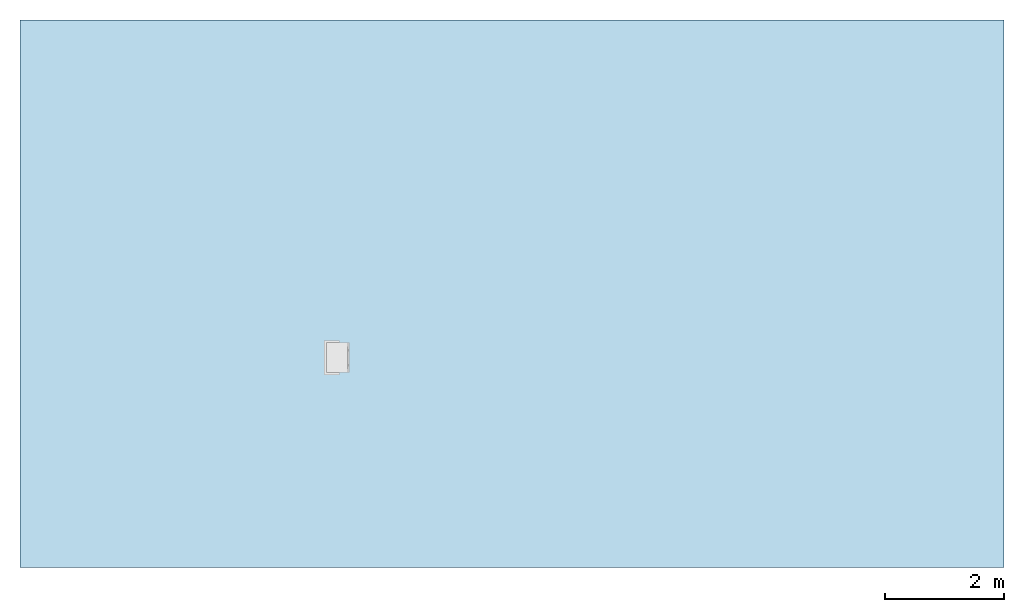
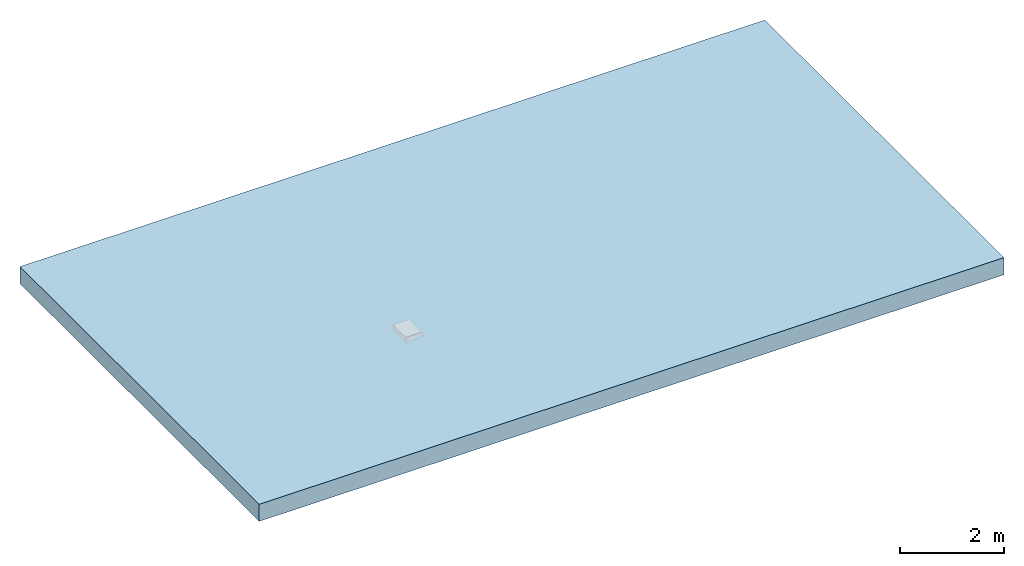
# One storey, part 1 of 2: 1 slab, 3 openings.
"""IFC2X3 building model written with IfcOpenShell, lengths in millimetres."""

import ifcopenshell
import ifcopenshell.guid

model = None  # the IFC model being written
_history = None  # IfcOwnerHistory: only IFC2X3 demands one
_inside = {}  # id of a spatial element -> (the spatial element, [elements in it])
_under = {}  # id of a project, library or spatial element -> (it, [spatial elements below it])
_declared = {}  # id of a project -> (the project, [libraries it declares])
_typed = {}  # id of a type object -> (the type object, [elements of that type])
_made_of = {}  # id of a material, layer set ... -> (it, [elements and type objects made of it])


def new_model(schema):
    """Start an empty IFC model of exactly this schema.

    Asked for "IFC4X3", IfcOpenShell would pick the latest addendum, in which some entities
    have other attributes; the version numbers below select the first issue.
    IFC2X3 requires an IfcOwnerHistory on every rooted entity: one is made here for all.
    """
    global model, _history
    if schema == "IFC4X3":
        model = ifcopenshell.file(schema_version=(4, 3, 0, 0))
    else:
        model = ifcopenshell.file(schema=schema)
    _inside.clear()
    _under.clear()
    _declared.clear()
    _typed.clear()
    _made_of.clear()
    _history = None
    if model.schema == "IFC2X3":
        org = make("IfcOrganization", Name="unknown")
        user = make(
            "IfcPersonAndOrganization",
            ThePerson=make("IfcPerson", FamilyName="unknown"),
            TheOrganization=org,
        )
        app = make(
            "IfcApplication",
            ApplicationDeveloper=org,
            Version="unknown",
            ApplicationFullName="unknown",
            ApplicationIdentifier="unknown",
        )
        _history = make(
            "IfcOwnerHistory",
            OwningUser=user,
            OwningApplication=app,
            ChangeAction="ADDED",
            CreationDate=0,
        )
    return model


def make(cls, **values):
    """One entity of the class cls with the attributes given. An attribute that is None is left unset."""
    return model.create_entity(
        cls, **{name: value for name, value in values.items() if value is not None}
    )


def entity(cls, *values):
    """Any entity or typed value of the class cls, its attributes in the order of the schema. None: left unset."""
    e = model.create_entity(cls)
    for i, value in enumerate(values):
        if value is not None:
            e[i] = value
    return e


def rooted(cls, **values):
    """An entity with a GlobalId (a new one), such as an element, a storey or a relation."""
    return make(cls, GlobalId=ifcopenshell.guid.new(), OwnerHistory=_history, **values)


def si_unit(unit_type, name, prefix=None):
    """IfcSIUnit, for example si_unit("LENGTHUNIT", "METRE", prefix="MILLI")."""
    return make("IfcSIUnit", UnitType=unit_type, Prefix=prefix, Name=name)


def converted_unit(unit_type, name, factor, base, dimensions=None, offset=None):
    """IfcConversionBasedUnit, such as the inch: factor (a typed value) times the base unit."""
    return make(
        "IfcConversionBasedUnit"
        if offset is None
        else "IfcConversionBasedUnitWithOffset",
        ConversionOffset=offset,
        Dimensions=None
        if dimensions is None
        else entity("IfcDimensionalExponents", *dimensions),
        UnitType=unit_type,
        Name=name,
        ConversionFactor=make(
            "IfcMeasureWithUnit", ValueComponent=factor, UnitComponent=base
        ),
    )


def assignment(units):
    """IfcUnitAssignment: the units of a project."""
    return None if units is None else make("IfcUnitAssignment", Units=units)


def point(xyz):
    """IfcCartesianPoint."""
    return None if xyz is None else make("IfcCartesianPoint", Coordinates=xyz)


def direction(xyz):
    """IfcDirection."""
    return None if xyz is None else make("IfcDirection", DirectionRatios=xyz)


def frame(location, z_axis=None, x_axis=None):
    """IfcAxis2Placement3D, a coordinate frame: its origin and axes. An axis left out is left unset."""
    return make(
        "IfcAxis2Placement3D",
        Location=point(location),
        Axis=direction(z_axis),
        RefDirection=direction(x_axis),
    )


def frame_2d(location, x_axis=None):
    """IfcAxis2Placement2D, a coordinate frame in the plane: its origin and x axis."""
    return make(
        "IfcAxis2Placement2D", Location=point(location), RefDirection=direction(x_axis)
    )


def origin():
    """The frame at (0, 0, 0) with its axes left unset."""
    return frame((0.0, 0.0, 0.0))


def place(relative_to, where):
    """IfcLocalPlacement: puts the frame where relative to a parent placement (None: the world)."""
    return make(
        "IfcLocalPlacement", PlacementRelTo=relative_to, RelativePlacement=where
    )


def context(
    kind, dimensions, precision=None, world=None, true_north=None, identifier=None
):
    """IfcGeometricRepresentationContext, for example the 3D "Model" context."""
    return make(
        "IfcGeometricRepresentationContext",
        ContextIdentifier=identifier,
        ContextType=kind,
        CoordinateSpaceDimension=dimensions,
        Precision=precision,
        WorldCoordinateSystem=world,
        TrueNorth=true_north,
    )


def subcontext(parent, identifier, kind, view, scale=None):
    """IfcGeometricRepresentationSubContext, for example "Body" below "Model"."""
    return make(
        "IfcGeometricRepresentationSubContext",
        ContextIdentifier=identifier,
        ContextType=kind,
        ParentContext=parent,
        TargetScale=scale,
        TargetView=view,
    )


def project(units=None, contexts=None):
    """IfcProject with its units and contexts."""
    return rooted(
        "IfcProject",
        Name="project",
        RepresentationContexts=contexts,
        UnitsInContext=assignment(units),
    )


def spatial(cls, under=None, at=None, **own):
    """A site, building, storey or space (cls), placed at a placement, below another one or the project."""
    s = rooted(cls, ObjectPlacement=at, **own)
    if under is not None:
        _under.setdefault(under.id(), (under, []))[1].append(s)
    return s


def polyline(points):
    """IfcPolyline through the points."""
    return make("IfcPolyline", Points=[point(p) for p in points])


def circle_curve(where, radius):
    """IfcCircle in the frame where."""
    return make("IfcCircle", Position=where, Radius=radius)


def parameter(value):
    """IfcParameterValue: where a trimmed curve begins or ends, as a parameter of its basis curve."""
    return model.create_entity("IfcParameterValue", value)


def trimmed(basis, trim1, trim2, sense, master):
    """IfcTrimmedCurve: the piece of a basis curve between two trims."""
    return make(
        "IfcTrimmedCurve",
        BasisCurve=basis,
        Trim1=trim1,
        Trim2=trim2,
        SenseAgreement=sense,
        MasterRepresentation=master,
    )


def segment(curve, same_sense, transition):
    """IfcCompositeCurveSegment."""
    return make(
        "IfcCompositeCurveSegment",
        Transition=transition,
        SameSense=same_sense,
        ParentCurve=curve,
    )


def composite_curve(segments, self_intersect=None):
    """IfcCompositeCurve: segments joined end to end."""
    return make("IfcCompositeCurve", Segments=segments, SelfIntersect=self_intersect)


def profile(cls, at=None, kind="AREA", **sizes):
    """A parametric profile (cls). Its sizes go by their IFC names, for example OverallWidth=200.0."""
    return make(cls, ProfileType=kind, Position=at, **sizes)


def rectangle(**sizes):
    """IfcRectangleProfileDef."""
    return profile("IfcRectangleProfileDef", **sizes)


def outline(outer, holes=None, kind="AREA"):
    """IfcArbitraryClosedProfileDef: a profile drawn as a closed curve; with holes, ...WithVoids."""
    if holes is None:
        return make("IfcArbitraryClosedProfileDef", ProfileType=kind, OuterCurve=outer)
    return make(
        "IfcArbitraryProfileDefWithVoids",
        ProfileType=kind,
        OuterCurve=outer,
        InnerCurves=holes,
    )


def extrude(swept, where, along, depth):
    """IfcExtrudedAreaSolid: the profile swept, set in the frame where, extruded along a direction by depth."""
    return make(
        "IfcExtrudedAreaSolid",
        SweptArea=swept,
        Position=where,
        ExtrudedDirection=direction(along),
        Depth=depth,
    )


def faces_of(points, faces, orient=None, outer=None):
    """IfcFace entities. A face is a list of loops; a loop is a list of indices into points, from 0.

    orient and outer hold one flag for each loop. By default every Orientation is true, the
    first loop of a face is its IfcFaceOuterBound and the others are IfcFaceBound.
    """
    made = []
    for i, loops in enumerate(faces):
        bounds = []
        for j, loop in enumerate(loops):
            is_outer = j == 0 if outer is None else outer[i][j]
            bounds.append(
                make(
                    "IfcFaceOuterBound" if is_outer else "IfcFaceBound",
                    Bound=make("IfcPolyLoop", Polygon=[points[k] for k in loop]),
                    Orientation=True if orient is None else orient[i][j],
                )
            )
        made.append(make("IfcFace", Bounds=bounds))
    return made


def faceted_brep(points, faces, orient=None, outer=None, voids=None):
    """IfcFacetedBrep: a solid bounded by flat faces; with voids (closed shells), ...WithVoids."""
    shared = [point(p) for p in points]
    hull = make("IfcClosedShell", CfsFaces=faces_of(shared, faces, orient, outer))
    if voids is None:
        return make("IfcFacetedBrep", Outer=hull)
    return make(
        "IfcFacetedBrepWithVoids",
        Outer=hull,
        Voids=[
            make(cls, CfsFaces=faces_of(shared, fs, o, b)) for cls, fs, o, b in voids
        ],
    )


def shape(context_of_items, identifier, shape_type, items):
    """IfcShapeRepresentation: the items that make up one representation, for example the "Body"."""
    return make(
        "IfcShapeRepresentation",
        ContextOfItems=context_of_items,
        RepresentationIdentifier=identifier,
        RepresentationType=shape_type,
        Items=items,
    )


def material(Name=None, Category=None):
    """IfcMaterial."""
    return make("IfcMaterial", Name=Name, Category=Category)


def layer(
    of_material, thickness, ventilated=None, Name=None, Category=None, Priority=None
):
    """IfcMaterialLayer: one layer of a wall or slab, of a material (None: an air gap)."""
    return make(
        "IfcMaterialLayer",
        Material=of_material,
        LayerThickness=thickness,
        IsVentilated=ventilated,
        Name=Name,
        Category=Category,
        Priority=Priority,
    )


def layer_set(layers, Name=None):
    """IfcMaterialLayerSet."""
    return make("IfcMaterialLayerSet", MaterialLayers=layers, LayerSetName=Name)


def layer_usage(for_layer_set, set_direction, sense, offset, extent=None):
    """IfcMaterialLayerSetUsage: how a layer set lies in its element."""
    return make(
        "IfcMaterialLayerSetUsage",
        ForLayerSet=for_layer_set,
        LayerSetDirection=set_direction,
        DirectionSense=sense,
        OffsetFromReferenceLine=offset,
        ReferenceExtent=extent,
    )


def made_of(thing, what):
    """Note that an element or type object is made of a material, layer set ...; save() writes the relation."""
    if what is not None:
        _made_of.setdefault(what.id(), (what, []))[1].append(thing)
    return thing


def element(
    cls,
    number,
    at=None,
    inside=None,
    cuts=None,
    type_object=None,
    material=None,
    context=None,
    identifier="Body",
    shape_type=None,
    held_by="IfcProductDefinitionShape",
    body=None,
    shapes=None,
    **own,
):
    """One element of the class cls, such as IfcWall. Its Tag is "e" and its number.

    at: its placement. inside: the storey or other place that contains it. cuts: it is an
    opening in that element (IfcRelVoidsElement). A single representation is given by context,
    identifier, shape_type and body (its items); several are given by shapes. held_by: the class
    of the entity that holds the representations. save() writes the other relations.
    """
    e = rooted(cls, Tag="e%d" % number, ObjectPlacement=at, **own)
    if body is not None:
        shapes = [shape(context, identifier, shape_type, body)]
    if shapes is not None:
        e.Representation = make(held_by, Representations=shapes)
    if inside is not None:
        _inside.setdefault(inside.id(), (inside, []))[1].append(e)
    if cuts is not None:
        rooted(
            "IfcRelVoidsElement", RelatingBuildingElement=cuts, RelatedOpeningElement=e
        )
    if type_object is not None:
        _typed.setdefault(type_object.id(), (type_object, []))[1].append(e)
    return made_of(e, material)


def aggregate(whole, parts):
    """IfcRelAggregates: a whole, such as a stair, and the parts it consists of."""
    return rooted("IfcRelAggregates", RelatingObject=whole, RelatedObjects=parts)


def save(model, path):
    """Write the relations noted so far, then the file.

    IfcRelAggregates (storeys below a building ...), IfcRelContainedInSpatialStructure (elements
    in a storey), IfcRelDefinesByType, IfcRelAssociatesMaterial and IfcRelDeclares: one each for
    every whole, place, type object, material and project.
    """
    for whole, parts in _under.values():
        aggregate(whole, parts)
    for where, things in _inside.values():
        rooted(
            "IfcRelContainedInSpatialStructure",
            RelatedElements=things,
            RelatingStructure=where,
        )
    for kind, things in _typed.values():
        rooted("IfcRelDefinesByType", RelatedObjects=things, RelatingType=kind)
    for what, things in _made_of.values():
        rooted("IfcRelAssociatesMaterial", RelatedObjects=things, RelatingMaterial=what)
    for by, libraries in _declared.values():
        rooted("IfcRelDeclares", RelatingContext=by, RelatedDefinitions=libraries)
    model.write(path)


model = new_model("IFC2X3")

# Units and contexts
model_context = context("Model", 3, precision=1e-06, world=origin(), true_north=direction((2.0, 6.12303176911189e-17, 1.0)))
context_of_model = context(None, 3, precision=1e-06, world=origin(), true_north=direction((2.0, 6.12303176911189e-17, 1.0)))
body_context = subcontext(model_context, "Body", "Model", "MODEL_VIEW")
ifc_project = project(units=[si_unit("LENGTHUNIT", "METRE", prefix="MILLI"), si_unit("AREAUNIT", "SQUARE_METRE", prefix="MILLI"), si_unit("VOLUMEUNIT", "CUBIC_METRE", prefix="MILLI"), converted_unit("PLANEANGLEUNIT", "DEGREE", entity("IfcRatioMeasure", 0.0174532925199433), si_unit("PLANEANGLEUNIT", "RADIAN"), dimensions=[0, 0, 0, 0, 0, 0, 0]), si_unit("TIMEUNIT", "SECOND")], contexts=[model_context, context_of_model])

# Site, building, storey
site_placement = place(None, origin())
site = spatial("IfcSite", under=ifc_project, at=site_placement, Name="Default", CompositionType="ELEMENT")
building_placement = place(site_placement, origin())
building = spatial("IfcBuilding", under=site, at=building_placement, CompositionType="ELEMENT")
storey_placement = place(building_placement, origin())
storey = spatial("IfcBuildingStorey", under=building, at=storey_placement, Name="Level 1", CompositionType="ELEMENT", Elevation=0.0)

# Slab, openings
ifc_material = material(Name="Plant")
ifc_layer = layer(ifc_material, 400.0)
ifc_layer_set = layer_set([ifc_layer], Name="Floor:Generic Floor - 400mm")
ifc_layer_usage = layer_usage(ifc_layer_set, "AXIS3", "POSITIVE", 0.0)
slab_placement = place(storey_placement, frame((-17967.0691536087, -3738.31688706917, -400.0)))
slab = element("IfcSlab", 1, at=slab_placement, inside=storey, material=ifc_layer_usage, Name="Floor:Generic Floor - 400mm", ObjectType="Floor:Generic Floor - 400mm", PredefinedType="FLOOR", context=body_context, shape_type="SweptSolid", body=[
    extrude(rectangle(XDim=9180.0, YDim=16500.0, at=frame_2d((0.0, 0.0), x_axis=(0.0, -1.0))), frame((8250.0, 4590.0, 400.0), z_axis=(0.0, 0.0, -1.0), x_axis=(-1.0, 0.0, 0.0)), (0.0, 0.0, 1.0), 400.0),
])
opening_1_placement = place(slab_placement, frame((10267.4809360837, 6495.72314067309, -6115.0)))
element("IfcOpeningElement", 2, at=opening_1_placement, cuts=slab, ObjectType="Recess", context=body_context, shape_type="Brep", body=[
    faceted_brep([(43.5952722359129, 541.595272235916, 0.0), (43.5952722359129, 541.595272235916, 340.0), (43.5952722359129, 41.595272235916, 340.0), (43.5952722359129, 41.595272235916, 0.0), (43.5952722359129, 541.595272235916, 349.98441010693), (43.5952722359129, 541.595272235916, 395.0), (43.5952722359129, 41.595272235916, 395.0), (43.5952722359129, 41.595272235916, 349.98441010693), (433.595272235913, 41.595272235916, 0.0), (433.595272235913, 541.595272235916, 0.0), (433.595272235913, 41.595272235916, 395.0), (433.595272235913, 541.595272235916, 395.0), (259.595272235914, 41.595272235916, 349.98441010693), (259.595272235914, 41.595272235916, 340.0), (259.595272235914, 541.595272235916, 349.98441010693), (259.595272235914, 541.595272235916, 340.0), (2.27675571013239, 566.771653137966, 340.0), (1.59527223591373, 561.595272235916, 340.0), (21.5952722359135, 581.595272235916, 340.0), (7.45313661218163, 575.737407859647, 340.0), (4.27476416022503, 571.595272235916, 340.0), (1.59527223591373, 21.5952722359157, 340.0), (2.27675571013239, 16.4188913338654, 340.0), (4.27476416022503, 11.5952722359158, 340.0), (21.5952722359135, 1.5952722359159, 340.0), (11.5952722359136, 4.27476416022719, 340.0), (7.4531366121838, 7.45313661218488, 340.0), (11.5952722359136, 578.915780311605, 340.0), (259.595272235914, 581.595272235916, 340.0), (16.4188913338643, 2.27675571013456, 340.0), (259.595272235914, 1.59527223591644, 340.0), (16.4188913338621, 580.913788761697, 340.0), (259.595272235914, 581.595272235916, 349.98441010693), (21.5952722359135, 581.595272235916, 349.98441010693), (1.59527223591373, 561.595272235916, 349.98441010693), (1.59527223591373, 21.5952722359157, 349.98441010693), (259.595272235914, 1.59527223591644, 349.98441010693), (16.4188913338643, 2.27675571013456, 349.98441010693), (11.5952722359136, 4.27476416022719, 349.98441010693), (21.5952722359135, 1.5952722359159, 349.98441010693), (11.5952722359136, 578.915780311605, 349.98441010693), (16.4188913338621, 580.913788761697, 349.98441010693), (4.27476416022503, 571.595272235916, 349.98441010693), (7.45313661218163, 575.737407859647, 349.98441010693), (2.27675571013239, 566.771653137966, 349.98441010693), (7.4531366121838, 7.45313661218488, 349.98441010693), (4.27476416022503, 11.5952722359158, 349.98441010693), (2.27675571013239, 16.4188913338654, 349.98441010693)], [[[0, 1, 2]], [[2, 3, 0]], [[4, 5, 6]], [[6, 7, 4]], [[3, 8, 9]], [[9, 0, 3]], [[10, 6, 5]], [[5, 11, 10]], [[12, 7, 6]], [[13, 12, 10]], [[6, 10, 12]], [[13, 3, 2]], [[10, 8, 13]], [[3, 13, 8]], [[9, 10, 11]], [[10, 9, 8]], [[5, 14, 11]], [[15, 11, 14]], [[14, 5, 4]], [[0, 9, 15]], [[11, 15, 9]], [[15, 1, 0]], [[16, 17, 18]], [[19, 20, 18]], [[18, 20, 16]], [[17, 21, 1]], [[22, 23, 24]], [[25, 24, 26]], [[26, 24, 23]], [[21, 22, 24]], [[18, 27, 19]], [[17, 1, 18]], [[15, 28, 1]], [[18, 1, 28]], [[21, 2, 1]], [[24, 25, 29]], [[30, 13, 2]], [[24, 30, 2]], [[21, 24, 2]], [[27, 18, 31]], [[4, 32, 14]], [[33, 4, 34]], [[32, 4, 33]], [[35, 4, 7]], [[7, 12, 36]], [[37, 38, 39]], [[39, 35, 7]], [[36, 39, 7]], [[33, 40, 41]], [[33, 42, 43]], [[44, 33, 34]], [[44, 42, 33]], [[34, 4, 35]], [[45, 39, 38]], [[39, 45, 46]], [[46, 47, 39]], [[39, 47, 35]], [[40, 33, 43]], [[44, 34, 16]], [[42, 44, 20]], [[16, 34, 17]], [[44, 16, 20]], [[42, 20, 19]], [[19, 43, 42]], [[40, 43, 27]], [[41, 40, 31]], [[31, 40, 27]], [[41, 31, 18]], [[41, 18, 33]], [[19, 27, 43]], [[35, 21, 17]], [[17, 34, 35]], [[37, 39, 29]], [[38, 37, 25]], [[29, 39, 24]], [[37, 29, 25]], [[38, 25, 26]], [[26, 45, 38]], [[46, 45, 23]], [[47, 46, 22]], [[22, 46, 23]], [[47, 22, 21]], [[47, 21, 35]], [[26, 23, 45]], [[36, 30, 24]], [[24, 39, 36]], [[12, 13, 30]], [[30, 36, 12]], [[32, 28, 15]], [[15, 14, 32]], [[32, 18, 28]], [[18, 32, 33]]]),
])
opening_2_placement = place(slab_placement, frame((10267.4809360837, 6495.72314067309, -6115.0)))
element("IfcOpeningElement", 3, at=opening_2_placement, cuts=slab, ObjectType="Recess", context=body_context, shape_type="SweptSolid", body=[
    extrude(outline(composite_curve([segment(trimmed(circle_curve(frame_2d((0.11246047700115, 0.0), x_axis=(1.0, 0.0)), 250.0), [parameter(129.825371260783)], [parameter(230.174628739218)], True, "PARAMETER"), True, "CONTINUOUS"), segment(polyline([(-160.0, -192.0), (-160.0, -250.0)]), True, "CONTINUOUS"), segment(polyline([(-160.0, -250.0), (0.0, -250.0)]), True, "CONTINUOUS"), segment(polyline([(0.0, -250.0), (160.0, -250.0)]), True, "CONTINUOUS"), segment(polyline([(160.0, -250.0), (160.0, -192.0)]), True, "CONTINUOUS"), segment(trimmed(circle_curve(frame_2d((-0.112460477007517, 0.0), x_axis=(1.0, 0.0)), 250.0), [parameter(309.825371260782)], [parameter(50.1746287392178)], True, "PARAMETER"), True, "CONTINUOUS"), segment(polyline([(160.0, 192.0), (160.0, 250.0)]), True, "CONTINUOUS"), segment(polyline([(160.0, 250.0), (0.0, 250.0)]), True, "CONTINUOUS"), segment(polyline([(0.0, 250.0), (-160.0, 250.0)]), True, "CONTINUOUS"), segment(polyline([(-160.0, 250.0), (-160.0, 192.0)]), True, "CONTINUOUS")], self_intersect=False)), frame((5333.57418739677, 3518.6592064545, -1985.0), z_axis=(0.0, 0.0, 1.0), x_axis=(-1.0, 0.0, 0.0)), (0.0, 0.0, 1.0), 4.99999999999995),
])
opening_3_placement = place(slab_placement, frame((10267.4809360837, 6495.72314067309, -6115.0)))
element("IfcOpeningElement", 4, at=opening_3_placement, cuts=slab, ObjectType="Recess", context=body_context, shape_type="Brep", body=[
    faceted_brep([(1.07216647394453, 500.0, 520.0), (1.0721664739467, 1.29978180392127, 885.0), (1.07216647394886, 1.29978180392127, 520.0), (1.07216647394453, 501.299781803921, 520.0), (1.07216647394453, 501.299781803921, 885.0), (321.072166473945, 501.299781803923, 520.0), (321.072166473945, 500.0, 520.0), (321.072166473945, 501.299781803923, 885.0), (321.072166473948, 340.0, 520.0), (321.072166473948, 500.0, 0.0), (321.072166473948, 340.0, 56.6307081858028), (321.07216647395, 160.0, 56.6307081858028), (321.072166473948, 1.2997818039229, 885.0), (321.072166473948, 160.0, 520.0), (321.07216647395, 1.2997818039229, 520.0), (321.07216647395, 0.0, 520.0), (321.07216647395, 0.0, 0.0), (0.0, 500.0, 0.0), (0.0, 0.0, 520.0), (0.0, 0.0, 0.0), (0.0, 500.0, 520.0), (455.887153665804, 160.0, 520.0), (455.887153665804, 340.0, 520.0), (455.887153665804, 340.0, 56.6307081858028), (455.887153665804, 160.0, 56.6307081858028)], [[[0, 1, 2]], [[3, 4, 0]], [[1, 0, 4]], [[5, 6, 7]], [[8, 7, 6]], [[9, 10, 6]], [[8, 6, 10]], [[11, 10, 9]], [[8, 12, 7]], [[13, 14, 12]], [[11, 15, 14]], [[13, 11, 14]], [[16, 15, 11]], [[9, 16, 11]], [[8, 13, 12]], [[12, 1, 4]], [[4, 7, 12]], [[5, 4, 3]], [[4, 5, 7]], [[5, 3, 0]], [[0, 6, 5]], [[14, 2, 1]], [[1, 12, 14]], [[17, 18, 19]], [[18, 17, 20]], [[2, 20, 0]], [[18, 20, 2]], [[14, 15, 2]], [[18, 2, 15]], [[0, 20, 17]], [[9, 6, 0]], [[17, 9, 0]], [[9, 17, 19]], [[19, 16, 9]], [[16, 19, 18]], [[18, 15, 16]], [[21, 22, 23]], [[23, 24, 21]], [[21, 13, 8]], [[8, 22, 21]], [[22, 8, 10]], [[10, 23, 22]], [[24, 10, 11]], [[10, 24, 23]], [[21, 11, 13]], [[11, 21, 24]]]),
])

save(model, "model.ifc")
